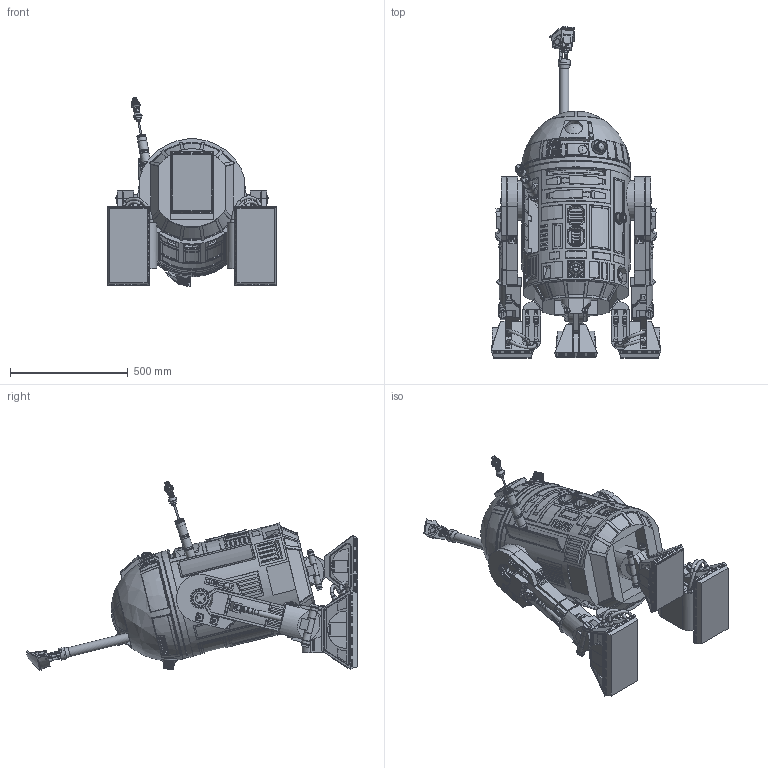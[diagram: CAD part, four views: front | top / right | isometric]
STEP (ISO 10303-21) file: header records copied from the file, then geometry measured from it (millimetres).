
FILE_DESCRIPTION( ( 'STEP AP214' ), '1' );
FILE_NAME( 'G:/r2d2_grab.stp', ' ', ( ' ' ), ( ' ' ), 'PSStep 15.0.47', 'PARTsolutions', ' ' );
FILE_SCHEMA( ( 'AUTOMOTIVE_DESIGN { 1 0 10303 214 1 1 1 1 }' ) );
Length unit declared in the file: millimetre
Products named in the file (34): 66271727 R2D2 14000PCIRB0 Dummy; _R2D2 o ankle os; _R2D2 o ankle1; _R2D2 o leg2; _R2D2 o leg; _R2D2 o leg1; _R2D2CI Body; _R2D2 Body skirt; _R2D2 c leg; _R2D2 c ankle; _R2D2 Body coin slot; _R2D2 front vent; _R2D2 power coupling; _R2D2 povket vent; _R2D2 Body side vent; _R2D2 Large Data port; _R2D2 PDome; _R2D2 Front light; _R2D2 Holo-projector; _R2D2 Holo-projector2; _R2D2 back light; _R2D2 Front logic display; _R2D2 Front logic display1; _R2D2 Front logic display2; _R2D2 Rear logic display; _R2D2 Rear logic display1; _R2D2 Periscope; _R2D2 Radar Eye; _R2D2 Body left_door; _R2D2 utility arm; _R2D2 Body computer interface arm; _R2D2 Restraining Bolt1; _R2D2 o leg 2; _R2D2 o ankle
Assembly tree (48 placements, depth 2):
  66271727 R2D2 14000PCIRB0 Dummy
    _R2D2 o ankle os
    _R2D2 o ankle1  x4
    _R2D2 o leg2  x2
    _R2D2 o leg
    _R2D2 o leg1  x4
    _R2D2CI Body
    _R2D2 Body skirt
    _R2D2 c leg
    _R2D2 c ankle
    _R2D2 Body coin slot
    _R2D2 front vent
    _R2D2 power coupling  x2
    _R2D2 povket vent  x2
    _R2D2 Body side vent  x2
    _R2D2 Large Data port
    _R2D2 PDome
    _R2D2 Front light
    _R2D2 Holo-projector  x3
    _R2D2 Holo-projector2  x3
    _R2D2 back light
    _R2D2 Front logic display
    _R2D2 Front logic display1
    _R2D2 Front logic display2
    _R2D2 Rear logic display
    _R2D2 Rear logic display1
    _R2D2 Periscope
    _R2D2 Radar Eye
    _R2D2 Body left_door
    _R2D2 utility arm  x2
    _R2D2 Body computer interface arm
    _R2D2 Restraining Bolt1
    _R2D2 o leg 2
    _R2D2 o ankle
Bounding box: 722.2 x 1411.5 x 803.47 mm (x, y, z)
Volume: 147201267.2 mm3; surface area: 5409728.4 mm2
Topology: 48 solids, 51 shells, 6750 faces, 17862 edges, 11816 vertices
Faces by surface type: plane 5157, cylinder 920, cone 528, bspline 76, torus 53, sphere 16
Full cylindrical faces by diameter (mm): 1.575 x7, 3 x12, 3.048 x3, 4.013 x8, 4.78 x8, 5 x3, 6.35 x2, 7.613 x1, 7.874 x1, 7.92 x8, 7.925 x1, 8 x2, 9.525 x4, 9.652 x2, 10 x10, 11 x4, 11.13 x8, 11.176 x1, 11.2 x6, 12 x2, 12.7 x10, 15.3 x4, 15.88 x8, 17.462 x1, 18.256 x1, 18.26 x1, 19.05 x3, 19.5 x8, 20 x4, 21 x2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
Entity records: 196461 total; most frequent: CARTESIAN_POINT 37167, ORIENTED_EDGE 24764, DIRECTION 23629, EDGE_CURVE 12382, LINE 8445, VECTOR 8445, VERTEX_POINT 8373, AXIS2_PLACEMENT_3D 7592
